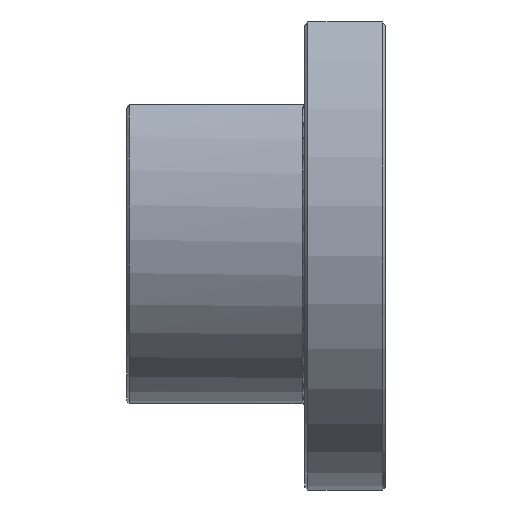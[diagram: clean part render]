
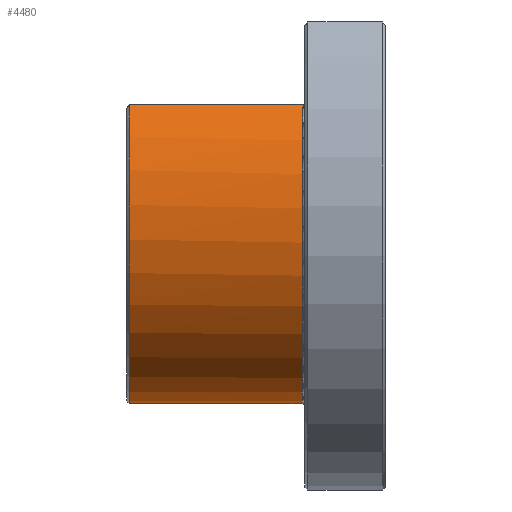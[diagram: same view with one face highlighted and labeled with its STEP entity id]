
A CAD part, left-side view. The second image highlights one B-rep face of the part: STEP entity #4480.
In plain terms, the highlighted cylindrical face has radius 35 mm (diameter 70 mm), a partial arc.
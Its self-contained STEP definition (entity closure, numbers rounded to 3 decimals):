
#147 = DIRECTION ( 'NONE',  ( 0., -1., 0. ) ) ;
#443 = ORIENTED_EDGE ( 'NONE', *, *, #11150, .T. ) ;
#1269 = LINE ( 'NONE', #8341, #6639 ) ;
#1425 = CARTESIAN_POINT ( 'NONE',  ( 0., 14.5, 0. ) ) ;
#1580 = DIRECTION ( 'NONE',  ( 0., 1., 0. ) ) ;
#1670 = AXIS2_PLACEMENT_3D ( 'NONE', #1425, #8533, #5665 ) ;
#1730 = ORIENTED_EDGE ( 'NONE', *, *, #4962, .T. ) ;
#1780 = ORIENTED_EDGE ( 'NONE', *, *, #7766, .T. ) ;
#2227 = CARTESIAN_POINT ( 'NONE',  ( -30.62, 13.814, 16.953 ) ) ;
#2600 = DIRECTION ( 'NONE',  ( 0., -1., 0. ) ) ;
#2728 = EDGE_CURVE ( 'NONE', #10415, #5964, #4561, .T. ) ;
#2868 = CARTESIAN_POINT ( 'NONE',  ( 0., 44.5, 0. ) ) ;
#2934 = AXIS2_PLACEMENT_3D ( 'NONE', #7170, #147, #10085 ) ;
#2964 = VERTEX_POINT ( 'NONE', #5229 ) ;
#3149 = CARTESIAN_POINT ( 'NONE',  ( -31.003, 14.5, 16.243 ) ) ;
#4262 = CARTESIAN_POINT ( 'NONE',  ( -30.878, 14.273, 16.481 ) ) ;
#4350 = DIRECTION ( 'NONE',  ( 0., 0., -1. ) ) ;
#4480 = ADVANCED_FACE ( 'NONE', ( #4799 ), #9972, .T. ) ;
#4561 = CIRCLE ( 'NONE', #11080, 35. ) ;
#4799 = FACE_OUTER_BOUND ( 'NONE', #5176, .T. ) ;
#4806 = EDGE_CURVE ( 'NONE', #2964, #6677, #7771, .T. ) ;
#4818 = DIRECTION ( 'NONE',  ( 0., -1., 0. ) ) ;
#4962 = EDGE_CURVE ( 'NONE', #5964, #2964, #1269, .T. ) ;
#5176 = EDGE_LOOP ( 'NONE', ( #8370, #1730, #11457, #1780, #443 ) ) ;
#5229 = CARTESIAN_POINT ( 'NONE',  ( 0., 14.5, -35. ) ) ;
#5319 =( BOUNDED_CURVE ( )  B_SPLINE_CURVE ( 3, ( #3149, #4262, #11100, #5780 ),
 .UNSPECIFIED., .F., .F. ) 
 B_SPLINE_CURVE_WITH_KNOTS ( ( 4, 4 ),
 ( 4.148, 4.171 ),
 .UNSPECIFIED. ) 
 CURVE ( )  GEOMETRIC_REPRESENTATION_ITEM ( )  RATIONAL_B_SPLINE_CURVE ( ( 1., 1., 1., 1. ) ) 
 REPRESENTATION_ITEM ( '' )  );
#5665 = DIRECTION ( 'NONE',  ( 0., 0., -1. ) ) ;
#5780 = CARTESIAN_POINT ( 'NONE',  ( -30.62, 13.814, 16.953 ) ) ;
#5964 = VERTEX_POINT ( 'NONE', #10906 ) ;
#6579 = CARTESIAN_POINT ( 'NONE',  ( -31.003, 14.5, 16.243 ) ) ;
#6639 = VECTOR ( 'NONE', #4818, 1000. ) ;
#6677 = VERTEX_POINT ( 'NONE', #6579 ) ;
#6856 = LINE ( 'NONE', #8582, #7470 ) ;
#7170 = CARTESIAN_POINT ( 'NONE',  ( 0., -24.17, 0. ) ) ;
#7470 = VECTOR ( 'NONE', #1580, 1000. ) ;
#7766 = EDGE_CURVE ( 'NONE', #6677, #9017, #5319, .T. ) ;
#7771 = CIRCLE ( 'NONE', #1670, 35. ) ;
#8341 = CARTESIAN_POINT ( 'NONE',  ( 0., -24.17, -35. ) ) ;
#8370 = ORIENTED_EDGE ( 'NONE', *, *, #2728, .T. ) ;
#8533 = DIRECTION ( 'NONE',  ( 0., 1., 0. ) ) ;
#8582 = CARTESIAN_POINT ( 'NONE',  ( -30.62, -24.17, 16.953 ) ) ;
#9017 = VERTEX_POINT ( 'NONE', #2227 ) ;
#9972 = CYLINDRICAL_SURFACE ( 'NONE', #2934, 35. ) ;
#10085 = DIRECTION ( 'NONE',  ( 0., 0., -1. ) ) ;
#10415 = VERTEX_POINT ( 'NONE', #11245 ) ;
#10906 = CARTESIAN_POINT ( 'NONE',  ( 0., 44.5, -35. ) ) ;
#11080 = AXIS2_PLACEMENT_3D ( 'NONE', #2868, #2600, #4350 ) ;
#11100 = CARTESIAN_POINT ( 'NONE',  ( -30.75, 14.044, 16.718 ) ) ;
#11150 = EDGE_CURVE ( 'NONE', #9017, #10415, #6856, .T. ) ;
#11245 = CARTESIAN_POINT ( 'NONE',  ( -30.62, 44.5, 16.953 ) ) ;
#11457 = ORIENTED_EDGE ( 'NONE', *, *, #4806, .T. ) ;
